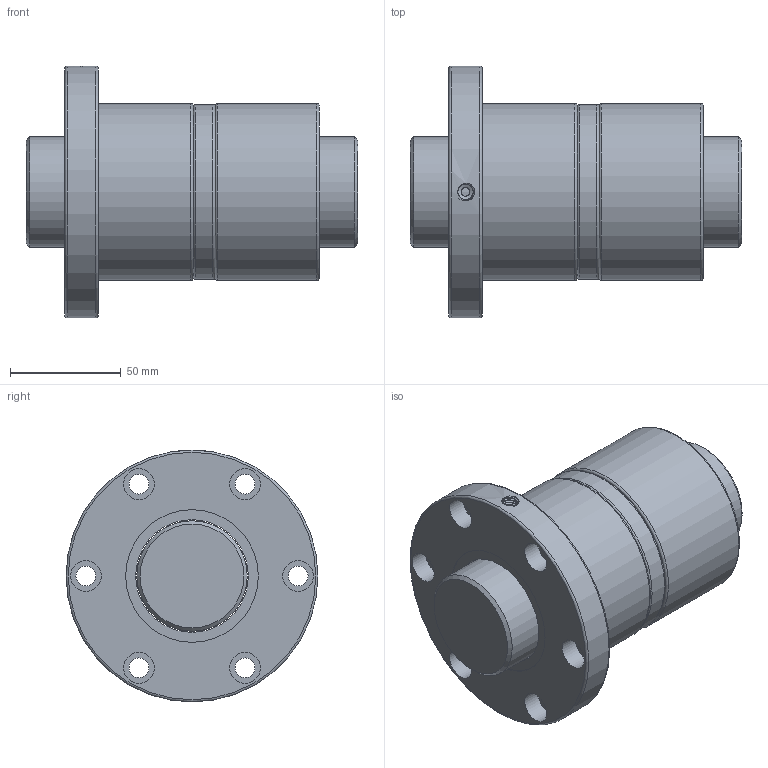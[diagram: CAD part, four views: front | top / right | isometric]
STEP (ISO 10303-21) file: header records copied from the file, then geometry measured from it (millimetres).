
FILE_DESCRIPTION(/* description */ ('Unknown','CAx-IF Rec.Pracs.---Representation and Presentation of Product Manufacturing Information (PMI)---4.0---2014-10-13','CAx-IF Rec.Pracs.---3D Tessellated Geometry---0.4---2014-09-14','2;1'),/* implementation_level */ '2;1');
FILE_NAME(/* name */ 'DFV5005-4.8',/* time_stamp */ '2020-12-08T12:07:08+08:00',/* author */ ('Unknown'),/* organization */ ('Unknown'),/* preprocessor_version */ 'ST-DEVELOPER v16.7',/* originating_system */ 'Solid Edge',/* authorisation */ 'Unknown');
FILE_SCHEMA (('AP242_MANAGED_MODEL_BASED_3D_ENGINEERING_MIM_LF { 1 0 10303 442 1 1 4 }'));
Length unit declared in the file: millimetre
Products named in the file (1): DFV5005-4.8
Bounding box: 150 x 114 x 114 mm (x, y, z)
Volume: 701961.6 mm3; surface area: 95976 mm2
Topology: 2 solids, 2 shells, 50 faces, 103 edges, 67 vertices
Faces by surface type: cylinder 23, plane 15, torus 7, cone 3, bspline 2
Full cylindrical faces by diameter (mm): 4 x1, 6.917 x1, 9 x6, 14 x6, 50 x1, 51 x1, 60 x1, 79 x1, 80 x2, 114 x1
Entity records: 3038 total; most frequent: CARTESIAN_POINT 2032, DIRECTION 208, ORIENTED_EDGE 126, EDGE_LOOP 107, FACE_BOUND 107, AXIS2_PLACEMENT_3D 105, EDGE_CURVE 63, VERTEX_POINT 58
